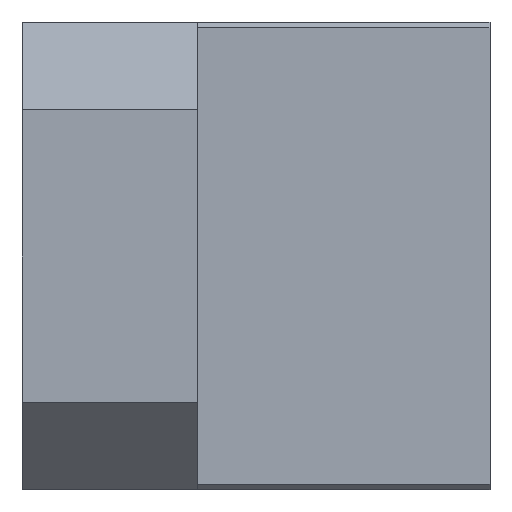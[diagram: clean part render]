
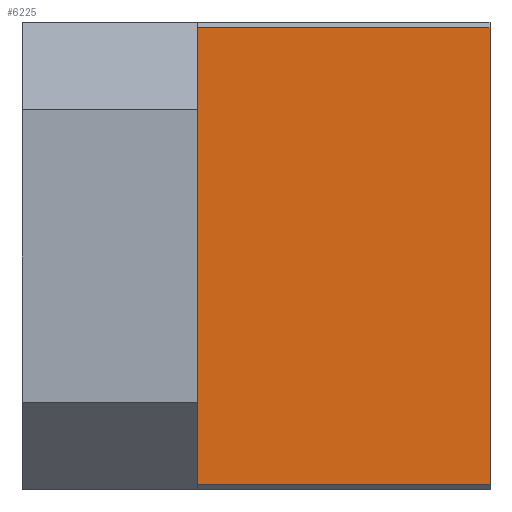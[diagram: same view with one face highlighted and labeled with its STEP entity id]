
A CAD part, left-side view. The second image highlights one B-rep face of the part: STEP entity #6225.
In plain terms, the highlighted planar face has unit normal (-1, 0, 0).
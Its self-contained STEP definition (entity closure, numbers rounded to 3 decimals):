
#176 = LINE ( 'NONE', #6756, #5911 ) ;
#611 = CARTESIAN_POINT ( 'NONE',  ( 27.146, 12.885, -7.8 ) ) ;
#1212 = CARTESIAN_POINT ( 'NONE',  ( 27.146, 12.885, 8. ) ) ;
#1298 = DIRECTION ( 'NONE',  ( 1., 0., 0. ) ) ;
#1492 = LINE ( 'NONE', #611, #10085 ) ;
#1573 = CARTESIAN_POINT ( 'NONE',  ( 27.146, 12.885, 7.8 ) ) ;
#2127 = AXIS2_PLACEMENT_3D ( 'NONE', #5827, #1298, #10370 ) ;
#2198 = FACE_OUTER_BOUND ( 'NONE', #2849, .T. ) ;
#2849 = EDGE_LOOP ( 'NONE', ( #8188, #9390, #8687, #8447 ) ) ;
#2857 = CARTESIAN_POINT ( 'NONE',  ( 27.146, 22.885, 8. ) ) ;
#3110 = DIRECTION ( 'NONE',  ( 0., 0., -1. ) ) ;
#3842 = CARTESIAN_POINT ( 'NONE',  ( 27.146, 22.885, -7.8 ) ) ;
#4212 = CARTESIAN_POINT ( 'NONE',  ( 27.146, 12.885, -7.8 ) ) ;
#4596 = VERTEX_POINT ( 'NONE', #4212 ) ;
#5131 = VERTEX_POINT ( 'NONE', #1573 ) ;
#5350 = VERTEX_POINT ( 'NONE', #3842 ) ;
#5523 = DIRECTION ( 'NONE',  ( 0., 0., -1. ) ) ;
#5791 = DIRECTION ( 'NONE',  ( 0., -1., 0. ) ) ;
#5827 = CARTESIAN_POINT ( 'NONE',  ( 27.146, 22.885, 8. ) ) ;
#5911 = VECTOR ( 'NONE', #9465, 1000. ) ;
#5944 = EDGE_CURVE ( 'NONE', #5131, #7906, #176, .T. ) ;
#6225 = ADVANCED_FACE ( 'NONE', ( #2198 ), #9644, .F. ) ;
#6756 = CARTESIAN_POINT ( 'NONE',  ( 27.146, 22.885, 7.8 ) ) ;
#7906 = VERTEX_POINT ( 'NONE', #9043 ) ;
#8188 = ORIENTED_EDGE ( 'NONE', *, *, #8302, .F. ) ;
#8244 = LINE ( 'NONE', #2857, #10099 ) ;
#8302 = EDGE_CURVE ( 'NONE', #5131, #4596, #10154, .T. ) ;
#8344 = VECTOR ( 'NONE', #3110, 1000. ) ;
#8447 = ORIENTED_EDGE ( 'NONE', *, *, #9068, .T. ) ;
#8687 = ORIENTED_EDGE ( 'NONE', *, *, #9200, .T. ) ;
#9043 = CARTESIAN_POINT ( 'NONE',  ( 27.146, 22.885, 7.8 ) ) ;
#9068 = EDGE_CURVE ( 'NONE', #5350, #4596, #1492, .T. ) ;
#9200 = EDGE_CURVE ( 'NONE', #7906, #5350, #8244, .T. ) ;
#9390 = ORIENTED_EDGE ( 'NONE', *, *, #5944, .T. ) ;
#9465 = DIRECTION ( 'NONE',  ( 0., 1., 0. ) ) ;
#9644 = PLANE ( 'NONE',  #2127 ) ;
#10085 = VECTOR ( 'NONE', #5791, 1000. ) ;
#10099 = VECTOR ( 'NONE', #5523, 1000. ) ;
#10154 = LINE ( 'NONE', #1212, #8344 ) ;
#10370 = DIRECTION ( 'NONE',  ( 0., 0., -1. ) ) ;
